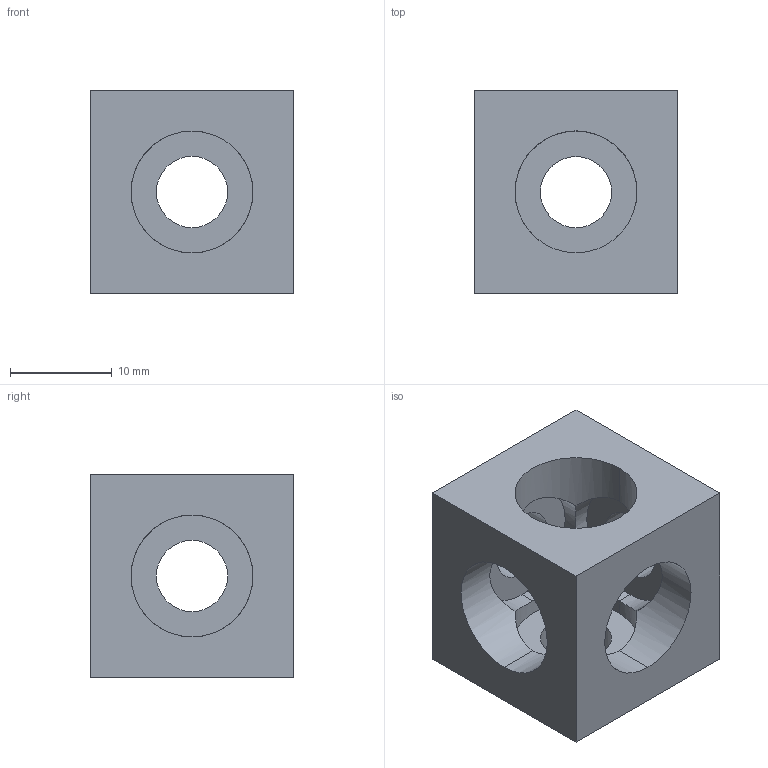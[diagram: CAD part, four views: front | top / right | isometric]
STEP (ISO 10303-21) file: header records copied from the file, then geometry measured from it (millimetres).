
FILE_DESCRIPTION (( 'STEP AP203' ), '1' );
FILE_NAME ('220B320.STEP', '2018-07-03T12:59:42', ( '' ), ( '' ), 'SwSTEP 2.0', 'SolidWorks 2014', '' );
FILE_SCHEMA (( 'CONFIG_CONTROL_DESIGN' ));
Length unit declared in the file: millimetre
Products named in the file (1): 220B320
Bounding box: 20 x 20 x 20 mm (x, y, z)
Volume: 4217.5 mm3; surface area: 3091.3 mm2
Topology: 1 solids, 1 shells, 27 faces, 74 edges, 48 vertices
Faces by surface type: cylinder 18, plane 9
Entity records: 957 total; most frequent: CARTESIAN_POINT 210, ORIENTED_EDGE 148, DIRECTION 134, EDGE_CURVE 74, AXIS2_PLACEMENT_3D 52, VERTEX_POINT 48, EDGE_LOOP 36, LINE 30
